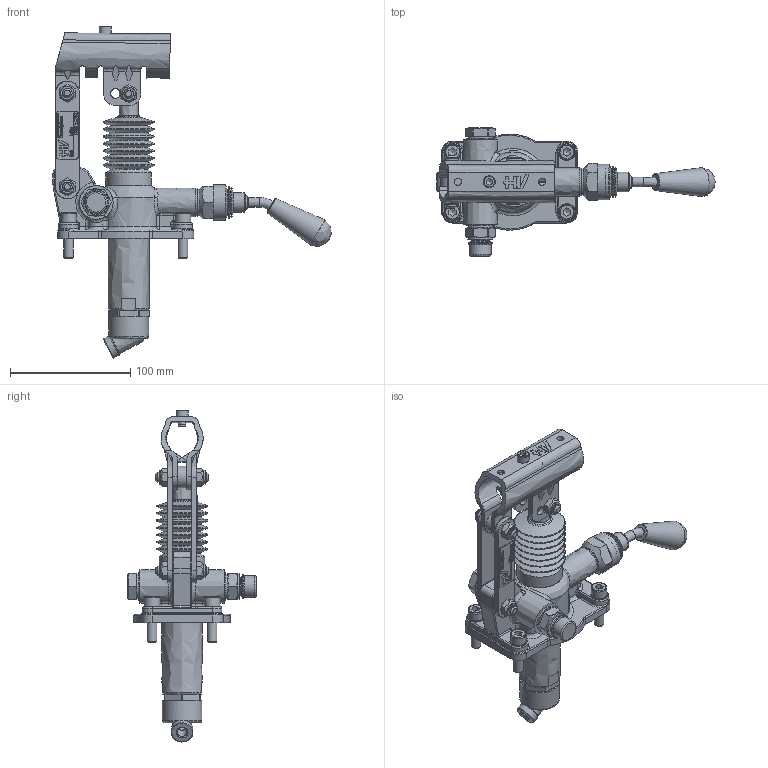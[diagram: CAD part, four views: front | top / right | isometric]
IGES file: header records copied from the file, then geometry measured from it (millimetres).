
Global section: file name: No Iges File Name specified; native system: Autodesk Inventor 2013; preprocessor: AutoDesk Inventor Iges Exporter R2013; author: christian.scardovi; date: 20240228.122730; units: millimetre
Bounding box: 231.27 x 106.5 x 276.08 mm (x, y, z)
Volume: 424736.5 mm3; surface area: 129998.2 mm2
Topology: 3 solids, 3 shells, 1478 faces, 3699 edges, 2329 vertices
Faces by surface type: bspline 1478
